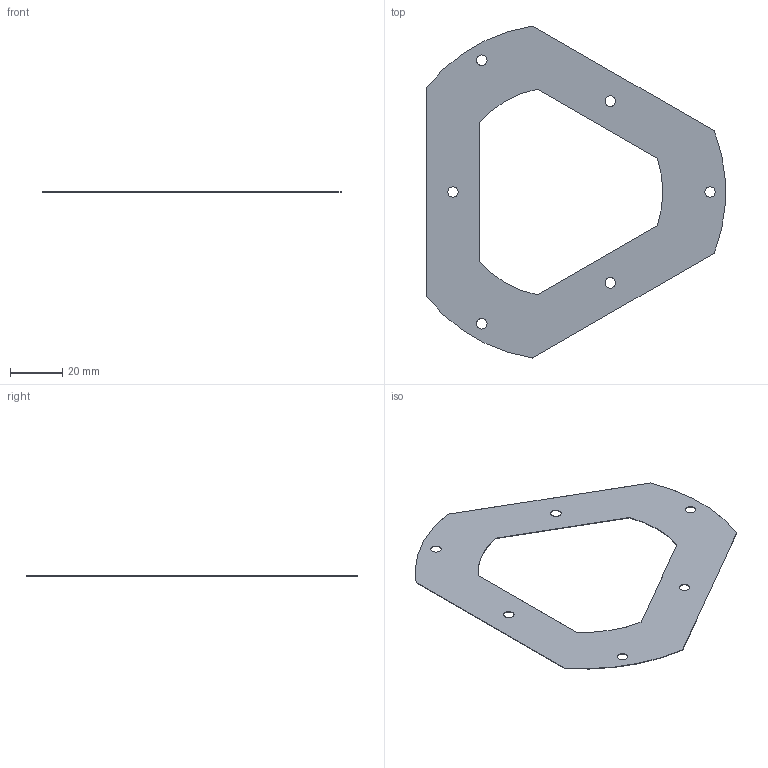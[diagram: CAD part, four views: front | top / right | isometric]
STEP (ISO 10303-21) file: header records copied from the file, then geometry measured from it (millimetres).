
FILE_DESCRIPTION (( 'STEP AP214' ), '1' );
FILE_NAME ('NH-10800_Part4.STEP', '2024-06-18T01:36:03', ( '' ), ( '' ), 'SwSTEP 2.0', 'SolidWorks 2023', '' );
FILE_SCHEMA (( 'AUTOMOTIVE_DESIGN' ));
Length unit declared in the file: millimetre
Products named in the file (1): NH-10800_Part4
Bounding box: 113.82 x 126.55 x 0.2 mm (x, y, z)
Volume: 1312.5 mm3; surface area: 13264.5 mm2
Topology: 1 solids, 1 shells, 26 faces, 72 edges, 48 vertices
Faces by surface type: cylinder 18, plane 8
Entity records: 903 total; most frequent: DIRECTION 162, CARTESIAN_POINT 147, ORIENTED_EDGE 144, EDGE_CURVE 72, AXIS2_PLACEMENT_3D 63, VERTEX_POINT 48, EDGE_LOOP 40, VECTOR 36
